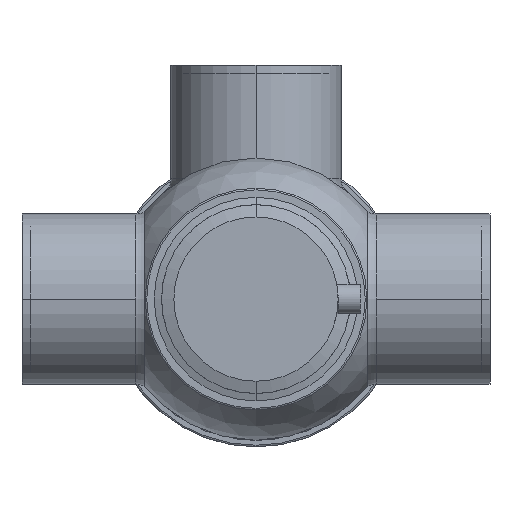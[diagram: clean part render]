
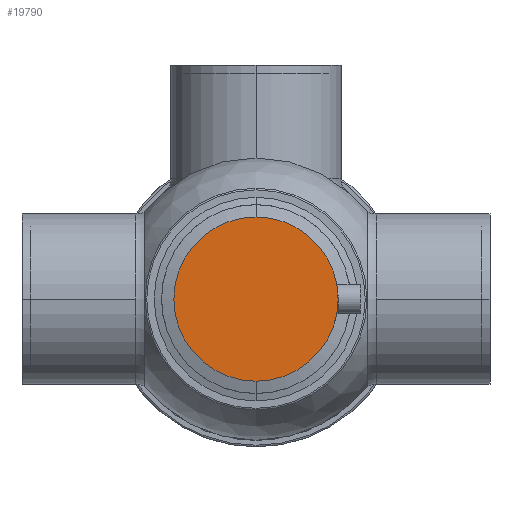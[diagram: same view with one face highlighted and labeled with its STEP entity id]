
A CAD part, front view. The second image highlights one B-rep face of the part: STEP entity #19790.
In plain terms, the highlighted planar face has unit normal (0, -1, 0) as drawn and (0, 0, -1) by its records, which use the part's own axes.
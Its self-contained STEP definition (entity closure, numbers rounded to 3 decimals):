
#11030=CARTESIAN_POINT('',(50.,34.1,-20.));
#11040=VERTEX_POINT('',#11030);
#11090=CARTESIAN_POINT('',(0.,34.1,-20.));
#11100=DIRECTION('',(0.,0.,1.));
#11110=DIRECTION('',(1.,0.,0.));
#11120=AXIS2_PLACEMENT_3D('',#11090,#11100,#11110);
#11130=CIRCLE('',#11120,50.);
#11140=CARTESIAN_POINT('',(-50.,34.1,-20.));
#11150=VERTEX_POINT('',#11140);
#11160=EDGE_CURVE('',#11150,#11040,#11130,.T.);
#19690=CARTESIAN_POINT('',(-48.25,34.1,-20.));
#19700=DIRECTION('',(0.,0.,-1.));
#19710=DIRECTION('',(-1.,0.,0.));
#19720=AXIS2_PLACEMENT_3D('',#19690,#19700,#19710);
#19730=PLANE('',#19720);
#19740=ORIENTED_EDGE('',*,*,#11160,.F.);
#19750=EDGE_CURVE('',#11040,#11150,#11130,.T.);
#19760=ORIENTED_EDGE('',*,*,#19750,.F.);
#19770=EDGE_LOOP('',(#19760,#19740));
#19780=FACE_OUTER_BOUND('',#19770,.T.);
#19790=ADVANCED_FACE('',(#19780),#19730,.T.);
